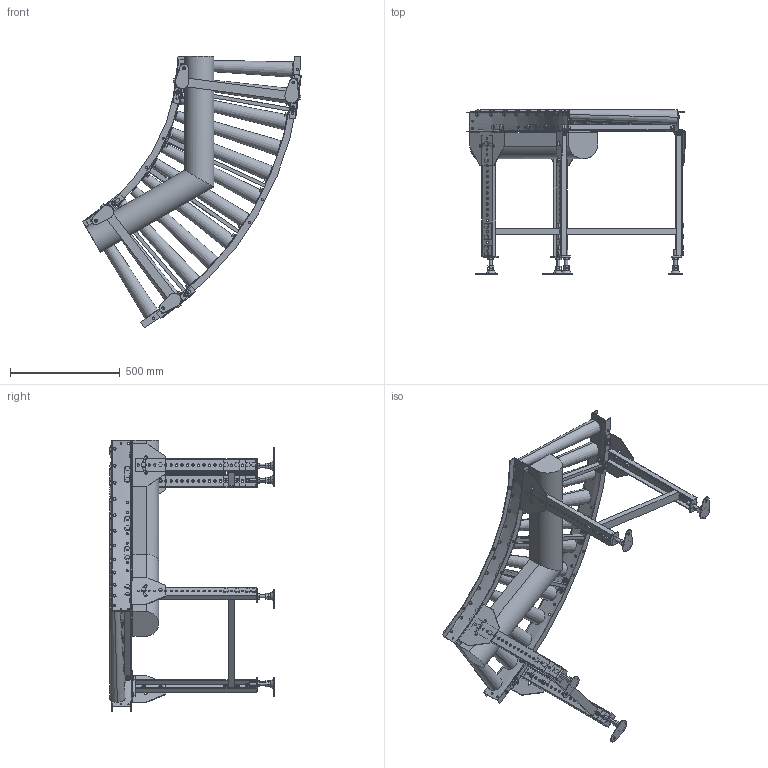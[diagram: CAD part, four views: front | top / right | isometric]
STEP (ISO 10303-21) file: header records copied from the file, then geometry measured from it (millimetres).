
FILE_DESCRIPTION (( 'STEP AP214' ), '1' );
FILE_NAME ('MCD50C9-60-500-100.STEP', '2022-08-01T07:26:44', ( '' ), ( '' ), 'SwSTEP 2.0', 'SolidWorks 2017', '' );
FILE_SCHEMA (( 'AUTOMOTIVE_DESIGN' ));
Length unit declared in the file: millimetre
Products named in the file (1): MCD50C9-60-500-100
Bounding box: 997.18 x 750 x 1238.42 mm (x, y, z)
Volume: 35827895.9 mm3; surface area: 3547575.3 mm2
Topology: 19 solids, 39 shells, 2576 faces, 6166 edges, 3888 vertices
Faces by surface type: plane 1824, cylinder 720, cone 32
Entity records: 110720 total; most frequent: CARTESIAN_POINT 20850, DIRECTION 12981, ORIENTED_EDGE 12332, EDGE_CURVE 6166, AXIS2_PLACEMENT_3D 4511, LINE 3959, VECTOR 3959, VERTEX_POINT 3888
